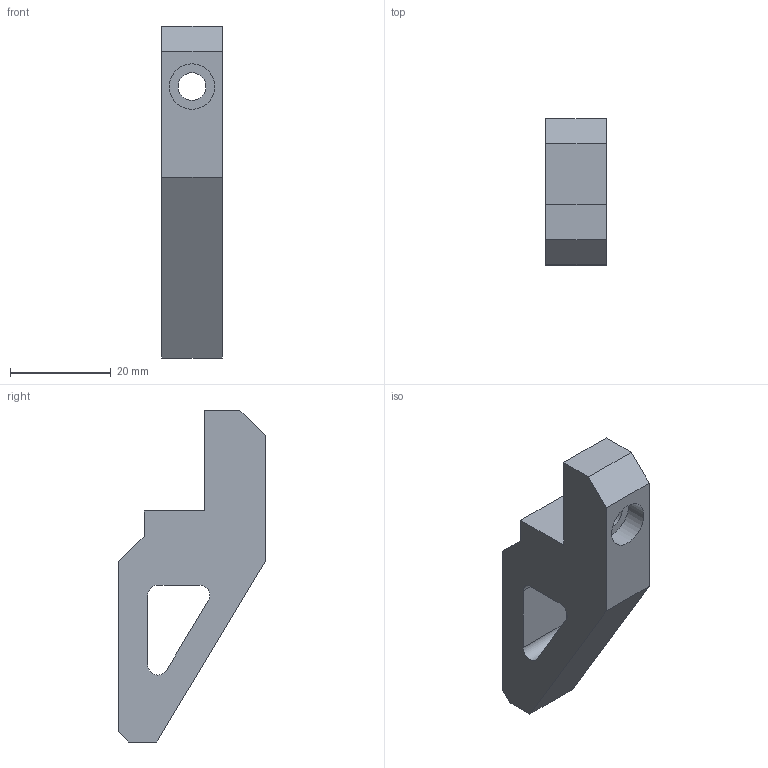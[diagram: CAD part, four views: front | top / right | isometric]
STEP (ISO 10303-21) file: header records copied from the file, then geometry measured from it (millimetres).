
FILE_DESCRIPTION(/* description */ (''),/* implementation_level */ '2;1');
FILE_NAME(/* name */ 'dito.stp',/* time_stamp */ '2025-02-14T09:15:43+01:00',/* author */ ('Ryzen5700u'),/* organization */ (''),/* preprocessor_version */ 'ST-DEVELOPER v20',/* originating_system */ 'Autodesk Inventor 2025',/* authorisation */ '');
FILE_SCHEMA (('AUTOMOTIVE_DESIGN { 1 0 10303 214 3 1 1 }'));
Length unit declared in the file: millimetre
Products named in the file (1): dito_MIR
Bounding box: 12 x 29 x 65.75 mm (x, y, z)
Volume: 11365.6 mm3; surface area: 4790.1 mm2
Topology: 1 solids, 1 shells, 22 faces, 57 edges, 38 vertices
Faces by surface type: plane 17, cylinder 5
Full cylindrical faces by diameter (mm): 5.5 x1, 9 x1
Entity records: 722 total; most frequent: CARTESIAN_POINT 118, ORIENTED_EDGE 114, DIRECTION 113, EDGE_CURVE 57, LINE 47, VECTOR 47, VERTEX_POINT 38, AXIS2_PLACEMENT_3D 33
